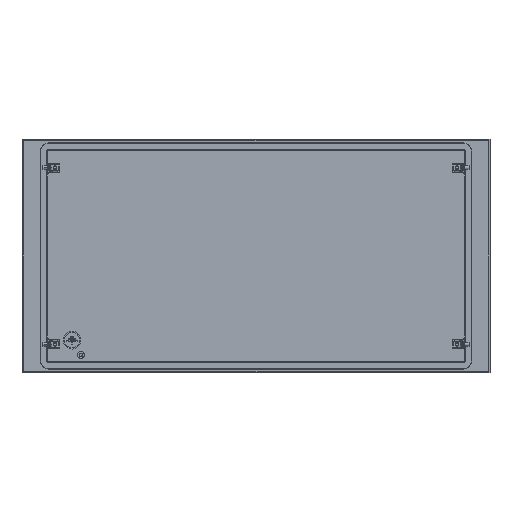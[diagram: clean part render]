
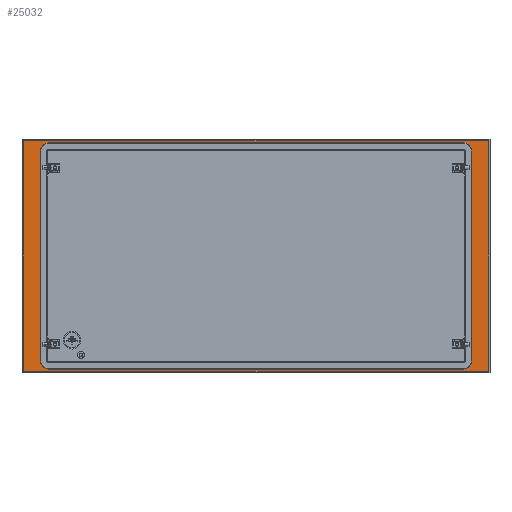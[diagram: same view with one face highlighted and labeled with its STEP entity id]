
A CAD part, left-side view. The second image highlights one B-rep face of the part: STEP entity #25032.
In plain terms, the highlighted planar face has unit normal (-1, 0, 0).
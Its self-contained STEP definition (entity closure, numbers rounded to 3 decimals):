
#10 = AXIS2_PLACEMENT_3D ( 'NONE', #10027, #295, #20247 ) ;
#295 = DIRECTION ( 'NONE',  ( 1., 0., 0. ) ) ;
#395 = CIRCLE ( 'NONE', #7345, 14. ) ;
#828 = CARTESIAN_POINT ( 'NONE',  ( -2., 366.5, 178. ) ) ;
#969 = EDGE_CURVE ( 'NONE', #21304, #22579, #15272, .T. ) ;
#971 = LINE ( 'NONE', #2753, #15185 ) ;
#1221 = VECTOR ( 'NONE', #14378, 1000. ) ;
#1572 = ORIENTED_EDGE ( 'NONE', *, *, #12255, .T. ) ;
#1656 = PLANE ( 'NONE',  #16475 ) ;
#1809 = CARTESIAN_POINT ( 'NONE',  ( -2., -352.5, -178. ) ) ;
#2204 = CARTESIAN_POINT ( 'NONE',  ( -2., -352.5, -192. ) ) ;
#2562 = VERTEX_POINT ( 'NONE', #828 ) ;
#2753 = CARTESIAN_POINT ( 'NONE',  ( -2., -352.5, 192. ) ) ;
#2994 = EDGE_CURVE ( 'NONE', #5589, #15837, #5942, .T. ) ;
#3070 = LINE ( 'NONE', #5126, #18841 ) ;
#3514 = DIRECTION ( 'NONE',  ( 0., 0., 1. ) ) ;
#3545 = LINE ( 'NONE', #20703, #12561 ) ;
#3570 = CARTESIAN_POINT ( 'NONE',  ( -2., -366.5, 178. ) ) ;
#3627 = DIRECTION ( 'NONE',  ( -1., 0., 0. ) ) ;
#3712 = DIRECTION ( 'NONE',  ( 0., 0., 1. ) ) ;
#3835 = DIRECTION ( 'NONE',  ( 0., -1., 0. ) ) ;
#3895 = CARTESIAN_POINT ( 'NONE',  ( -2., -352.5, 178. ) ) ;
#3966 = CARTESIAN_POINT ( 'NONE',  ( -2., 352.5, 192. ) ) ;
#3993 = VECTOR ( 'NONE', #8484, 1000. ) ;
#4086 = EDGE_CURVE ( 'NONE', #4315, #5589, #3545, .T. ) ;
#4184 = ORIENTED_EDGE ( 'NONE', *, *, #20197, .F. ) ;
#4315 = VERTEX_POINT ( 'NONE', #3570 ) ;
#4448 = VERTEX_POINT ( 'NONE', #15622 ) ;
#4762 = CARTESIAN_POINT ( 'NONE',  ( -2., 0., -196. ) ) ;
#4783 = AXIS2_PLACEMENT_3D ( 'NONE', #3895, #9547, #21324 ) ;
#4809 = DIRECTION ( 'NONE',  ( 0., 1., 0. ) ) ;
#4963 = EDGE_LOOP ( 'NONE', ( #1572, #7161, #10734, #16045 ) ) ;
#5071 = EDGE_LOOP ( 'NONE', ( #4184, #18567, #16324, #23637, #10723, #17563, #6864, #20466 ) ) ;
#5126 = CARTESIAN_POINT ( 'NONE',  ( -2., -352.5, -192. ) ) ;
#5312 = CARTESIAN_POINT ( 'NONE',  ( -2., 395.5, 196. ) ) ;
#5425 = DIRECTION ( 'NONE',  ( 0., 0., 1. ) ) ;
#5589 = VERTEX_POINT ( 'NONE', #17525 ) ;
#5942 = CIRCLE ( 'NONE', #14949, 14. ) ;
#6155 = CIRCLE ( 'NONE', #10, 14. ) ;
#6810 = EDGE_CURVE ( 'NONE', #24580, #2562, #395, .T. ) ;
#6864 = ORIENTED_EDGE ( 'NONE', *, *, #6810, .F. ) ;
#7034 = EDGE_CURVE ( 'NONE', #19335, #21304, #10655, .T. ) ;
#7161 = ORIENTED_EDGE ( 'NONE', *, *, #7034, .T. ) ;
#7345 = AXIS2_PLACEMENT_3D ( 'NONE', #14906, #3627, #5425 ) ;
#7652 = FACE_OUTER_BOUND ( 'NONE', #4963, .T. ) ;
#7796 = CARTESIAN_POINT ( 'NONE',  ( -2., -395.5, 0. ) ) ;
#8276 = EDGE_CURVE ( 'NONE', #16824, #24580, #971, .T. ) ;
#8484 = DIRECTION ( 'NONE',  ( 0., -1., 0. ) ) ;
#8853 = EDGE_CURVE ( 'NONE', #14310, #17902, #6155, .T. ) ;
#9037 = CARTESIAN_POINT ( 'NONE',  ( -2., 395.5, -196. ) ) ;
#9286 = CARTESIAN_POINT ( 'NONE',  ( -2., 366.5, -178. ) ) ;
#9362 = CARTESIAN_POINT ( 'NONE',  ( -2., 395.5, 0. ) ) ;
#9547 = DIRECTION ( 'NONE',  ( -1., 0., 0. ) ) ;
#9606 = DIRECTION ( 'NONE',  ( 1., 0., 0. ) ) ;
#10027 = CARTESIAN_POINT ( 'NONE',  ( -2., 352.5, -178. ) ) ;
#10655 = LINE ( 'NONE', #14504, #1221 ) ;
#10723 = ORIENTED_EDGE ( 'NONE', *, *, #8853, .T. ) ;
#10734 = ORIENTED_EDGE ( 'NONE', *, *, #969, .T. ) ;
#11384 = DIRECTION ( 'NONE',  ( 0., 0., -1. ) ) ;
#12255 = EDGE_CURVE ( 'NONE', #4448, #19335, #25176, .T. ) ;
#12561 = VECTOR ( 'NONE', #11384, 1000. ) ;
#12976 = DIRECTION ( 'NONE',  ( 0., 1., 0. ) ) ;
#13786 = VECTOR ( 'NONE', #3712, 1000. ) ;
#13820 = FACE_BOUND ( 'NONE', #5071, .T. ) ;
#14310 = VERTEX_POINT ( 'NONE', #18917 ) ;
#14378 = DIRECTION ( 'NONE',  ( 0., 1., 0. ) ) ;
#14504 = CARTESIAN_POINT ( 'NONE',  ( -2., 0., 196. ) ) ;
#14512 = LINE ( 'NONE', #4762, #3993 ) ;
#14906 = CARTESIAN_POINT ( 'NONE',  ( -2., 352.5, 178. ) ) ;
#14949 = AXIS2_PLACEMENT_3D ( 'NONE', #1809, #9606, #3835 ) ;
#15185 = VECTOR ( 'NONE', #4809, 1000. ) ;
#15272 = LINE ( 'NONE', #9362, #21444 ) ;
#15622 = CARTESIAN_POINT ( 'NONE',  ( -2., -395.5, -196. ) ) ;
#15837 = VERTEX_POINT ( 'NONE', #2204 ) ;
#16045 = ORIENTED_EDGE ( 'NONE', *, *, #16279, .T. ) ;
#16279 = EDGE_CURVE ( 'NONE', #22579, #4448, #14512, .T. ) ;
#16324 = ORIENTED_EDGE ( 'NONE', *, *, #2994, .T. ) ;
#16475 = AXIS2_PLACEMENT_3D ( 'NONE', #21605, #23625, #19679 ) ;
#16824 = VERTEX_POINT ( 'NONE', #17377 ) ;
#17377 = CARTESIAN_POINT ( 'NONE',  ( -2., -352.5, 192. ) ) ;
#17525 = CARTESIAN_POINT ( 'NONE',  ( -2., -366.5, -178. ) ) ;
#17563 = ORIENTED_EDGE ( 'NONE', *, *, #21305, .T. ) ;
#17902 = VERTEX_POINT ( 'NONE', #24244 ) ;
#18477 = VECTOR ( 'NONE', #3514, 1000. ) ;
#18567 = ORIENTED_EDGE ( 'NONE', *, *, #4086, .T. ) ;
#18841 = VECTOR ( 'NONE', #12976, 1000. ) ;
#18917 = CARTESIAN_POINT ( 'NONE',  ( -2., 352.5, -192. ) ) ;
#19335 = VERTEX_POINT ( 'NONE', #24071 ) ;
#19679 = DIRECTION ( 'NONE',  ( 0., 0., 1. ) ) ;
#20197 = EDGE_CURVE ( 'NONE', #4315, #16824, #22361, .T. ) ;
#20247 = DIRECTION ( 'NONE',  ( 0., 0., -1. ) ) ;
#20466 = ORIENTED_EDGE ( 'NONE', *, *, #8276, .F. ) ;
#20664 = LINE ( 'NONE', #9286, #18477 ) ;
#20703 = CARTESIAN_POINT ( 'NONE',  ( -2., -366.5, 0. ) ) ;
#21132 = DIRECTION ( 'NONE',  ( 0., 0., -1. ) ) ;
#21304 = VERTEX_POINT ( 'NONE', #5312 ) ;
#21305 = EDGE_CURVE ( 'NONE', #17902, #2562, #20664, .T. ) ;
#21324 = DIRECTION ( 'NONE',  ( 0., -1., 0. ) ) ;
#21444 = VECTOR ( 'NONE', #21132, 1000. ) ;
#21605 = CARTESIAN_POINT ( 'NONE',  ( -2., 0., 0. ) ) ;
#22361 = CIRCLE ( 'NONE', #4783, 14. ) ;
#22579 = VERTEX_POINT ( 'NONE', #9037 ) ;
#23332 = EDGE_CURVE ( 'NONE', #15837, #14310, #3070, .T. ) ;
#23625 = DIRECTION ( 'NONE',  ( 1., 0., 0. ) ) ;
#23637 = ORIENTED_EDGE ( 'NONE', *, *, #23332, .T. ) ;
#24071 = CARTESIAN_POINT ( 'NONE',  ( -2., -395.5, 196. ) ) ;
#24244 = CARTESIAN_POINT ( 'NONE',  ( -2., 366.5, -178. ) ) ;
#24580 = VERTEX_POINT ( 'NONE', #3966 ) ;
#25032 = ADVANCED_FACE ( 'NONE', ( #7652, #13820 ), #1656, .F. ) ;
#25176 = LINE ( 'NONE', #7796, #13786 ) ;
